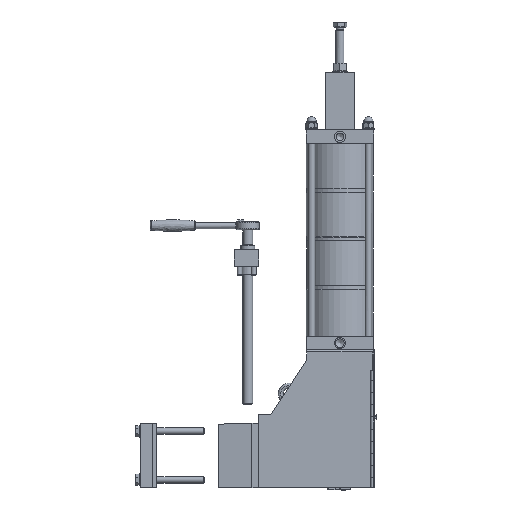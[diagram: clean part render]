
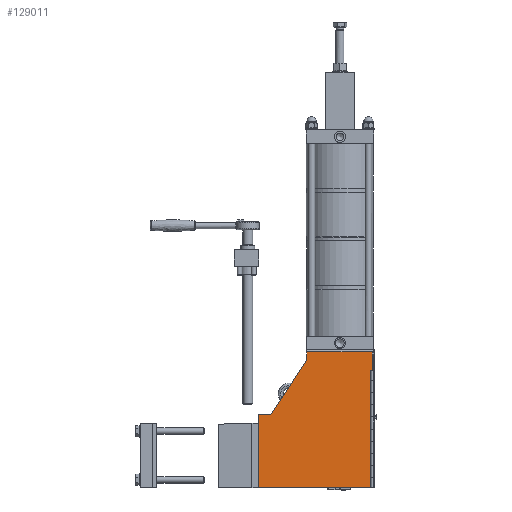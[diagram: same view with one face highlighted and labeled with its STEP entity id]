
A CAD part, left-side view. The second image highlights one B-rep face of the part: STEP entity #129011.
In plain terms, the highlighted planar face has unit normal (-1, 0, 0).
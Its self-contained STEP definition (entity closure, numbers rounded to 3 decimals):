
#18663=LINE('',#221043,#29578);
#18685=LINE('',#221092,#29600);
#18691=LINE('',#221102,#29606);
#18709=LINE('',#221155,#29624);
#18758=LINE('',#221343,#29673);
#18761=LINE('',#221349,#29676);
#18775=LINE('',#221385,#29690);
#18799=LINE('',#221479,#29714);
#18800=LINE('',#221481,#29715);
#29578=VECTOR('',#152681,10.);
#29600=VECTOR('',#152713,10.);
#29606=VECTOR('',#152721,10.);
#29624=VECTOR('',#152773,10.);
#29673=VECTOR('',#153000,10.);
#29676=VECTOR('',#153005,10.);
#29690=VECTOR('',#153039,10.);
#29714=VECTOR('',#153153,10.);
#29715=VECTOR('',#153156,10.);
#37413=FACE_OUTER_BOUND('',#44695,.T.);
#44695=EDGE_LOOP('',(#108170,#108171,#108172,#108173,#108174,#108175,#108176,
#108177,#108178));
#57414=VERTEX_POINT('',#221040);
#57415=VERTEX_POINT('',#221042);
#57436=VERTEX_POINT('',#221089);
#57437=VERTEX_POINT('',#221091);
#57440=VERTEX_POINT('',#221101);
#57458=VERTEX_POINT('',#221152);
#57508=VERTEX_POINT('',#221341);
#57510=VERTEX_POINT('',#221347);
#57547=VERTEX_POINT('',#221477);
#74513=EDGE_CURVE('',#57414,#57415,#18663,.T.);
#74539=EDGE_CURVE('',#57436,#57437,#18685,.T.);
#74545=EDGE_CURVE('',#57437,#57440,#18691,.T.);
#74573=EDGE_CURVE('',#57440,#57458,#18709,.T.);
#74661=EDGE_CURVE('',#57414,#57508,#18758,.T.);
#74664=EDGE_CURVE('',#57508,#57510,#18761,.T.);
#74682=EDGE_CURVE('',#57415,#57436,#18775,.T.);
#74724=EDGE_CURVE('',#57458,#57547,#18799,.T.);
#74725=EDGE_CURVE('',#57547,#57510,#18800,.T.);
#108170=ORIENTED_EDGE('',*,*,#74725,.F.);
#108171=ORIENTED_EDGE('',*,*,#74724,.F.);
#108172=ORIENTED_EDGE('',*,*,#74573,.F.);
#108173=ORIENTED_EDGE('',*,*,#74545,.F.);
#108174=ORIENTED_EDGE('',*,*,#74539,.F.);
#108175=ORIENTED_EDGE('',*,*,#74682,.F.);
#108176=ORIENTED_EDGE('',*,*,#74513,.F.);
#108177=ORIENTED_EDGE('',*,*,#74661,.T.);
#108178=ORIENTED_EDGE('',*,*,#74664,.T.);
#116237=PLANE('',#134187);
#129011=ADVANCED_FACE('',(#37413),#116237,.F.);
#134187=AXIS2_PLACEMENT_3D('',#221480,#153154,#153155);
#152681=DIRECTION('',(0.,1.,0.));
#152713=DIRECTION('',(0.,-1.,0.));
#152721=DIRECTION('',(0.,-0.545,0.839));
#152773=DIRECTION('',(0.,0.,1.));
#153000=DIRECTION('',(0.,0.,1.));
#153005=DIRECTION('',(0.,-1.,0.));
#153039=DIRECTION('',(0.,0.,1.));
#153153=DIRECTION('',(0.,-1.,0.));
#153154=DIRECTION('center_axis',(1.,0.,0.));
#153155=DIRECTION('ref_axis',(0.,1.,0.));
#153156=DIRECTION('',(0.,0.,-1.));
#221040=CARTESIAN_POINT('',(-89.,-276.5,0.));
#221042=CARTESIAN_POINT('',(-89.,0.,0.));
#221043=CARTESIAN_POINT('',(-89.,0.,0.));
#221089=CARTESIAN_POINT('',(-89.,0.,180.));
#221091=CARTESIAN_POINT('',(-89.,-30.,180.));
#221092=CARTESIAN_POINT('',(-89.,-30.,180.));
#221101=CARTESIAN_POINT('',(-89.,-117.67,315.));
#221102=CARTESIAN_POINT('',(-89.,-117.67,315.));
#221152=CARTESIAN_POINT('',(-89.,-117.67,335.));
#221155=CARTESIAN_POINT('',(-89.,-117.67,340.));
#221341=CARTESIAN_POINT('',(-89.,-276.5,290.));
#221343=CARTESIAN_POINT('',(-89.,-276.5,222.525));
#221347=CARTESIAN_POINT('',(-89.,-280.,290.));
#221349=CARTESIAN_POINT('',(-89.,-219.087,290.));
#221385=CARTESIAN_POINT('',(-89.,0.,180.));
#221477=CARTESIAN_POINT('',(-89.,-280.,335.));
#221479=CARTESIAN_POINT('',(-89.,-219.087,335.));
#221480=CARTESIAN_POINT('Origin',(-89.,-155.675,155.049));
#221481=CARTESIAN_POINT('',(-89.,-280.,77.525));
